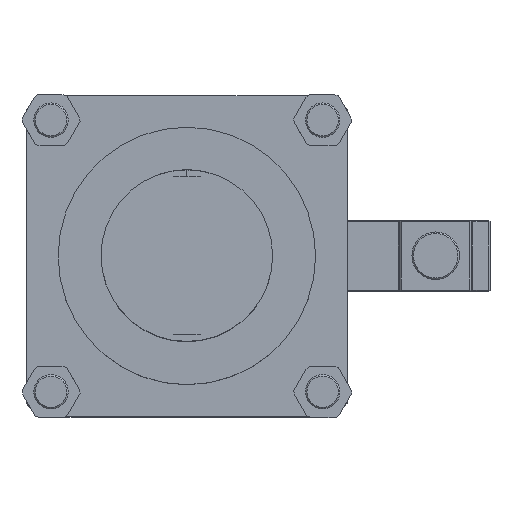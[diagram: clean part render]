
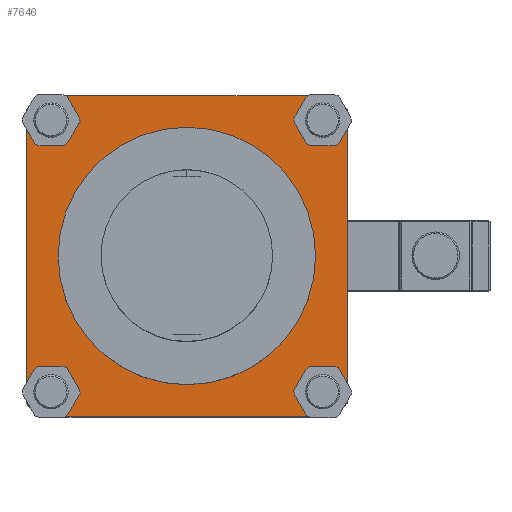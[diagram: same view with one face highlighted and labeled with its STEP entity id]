
A CAD part, top view. The second image highlights one B-rep face of the part: STEP entity #7646.
In plain terms, the highlighted planar face has unit normal (0, 0, 1).
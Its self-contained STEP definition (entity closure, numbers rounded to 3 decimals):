
#100 = DIRECTION ( 'NONE',  ( 0., 0., 1. ) ) ;
#212 = EDGE_CURVE ( 'NONE', #4734, #6245, #5312, .T. ) ;
#264 = VECTOR ( 'NONE', #4931, 1000. ) ;
#381 = CARTESIAN_POINT ( 'NONE',  ( -38.5, -47.5, 198. ) ) ;
#715 = AXIS2_PLACEMENT_3D ( 'NONE', #1867, #6213, #2491 ) ;
#779 = AXIS2_PLACEMENT_3D ( 'NONE', #5643, #1931, #6269 ) ;
#853 = CARTESIAN_POINT ( 'NONE',  ( 38.5, 47.5, 198. ) ) ;
#925 = CIRCLE ( 'NONE', #779, 45. ) ;
#1017 = CARTESIAN_POINT ( 'NONE',  ( 47.5, -47.5, 198. ) ) ;
#1080 = ORIENTED_EDGE ( 'NONE', *, *, #1457, .F. ) ;
#1132 = CIRCLE ( 'NONE', #6150, 9. ) ;
#1141 = CARTESIAN_POINT ( 'NONE',  ( 0., -56., 198. ) ) ;
#1199 = CARTESIAN_POINT ( 'NONE',  ( 0., 56., 198. ) ) ;
#1250 = VERTEX_POINT ( 'NONE', #5921 ) ;
#1316 = AXIS2_PLACEMENT_3D ( 'NONE', #1017, #5365, #1662 ) ;
#1354 = VERTEX_POINT ( 'NONE', #7873 ) ;
#1457 = EDGE_CURVE ( 'NONE', #5775, #6361, #925, .T. ) ;
#1479 = VECTOR ( 'NONE', #7325, 1000. ) ;
#1555 = EDGE_CURVE ( 'NONE', #1354, #3264, #4779, .T. ) ;
#1576 = DIRECTION ( 'NONE',  ( 0., 0., 1. ) ) ;
#1662 = DIRECTION ( 'NONE',  ( 1., 0., 0. ) ) ;
#1865 = DIRECTION ( 'NONE',  ( 0., 0., -1. ) ) ;
#1867 = CARTESIAN_POINT ( 'NONE',  ( 47.5, 47.5, 198. ) ) ;
#1892 = DIRECTION ( 'NONE',  ( 0., 0., 1. ) ) ;
#1927 = ORIENTED_EDGE ( 'NONE', *, *, #5437, .F. ) ;
#1931 = DIRECTION ( 'NONE',  ( 0., 0., 1. ) ) ;
#1935 = CIRCLE ( 'NONE', #6852, 9. ) ;
#2039 = ORIENTED_EDGE ( 'NONE', *, *, #2684, .T. ) ;
#2079 = AXIS2_PLACEMENT_3D ( 'NONE', #5614, #1892, #6242 ) ;
#2181 = VERTEX_POINT ( 'NONE', #4414 ) ;
#2187 = FACE_OUTER_BOUND ( 'NONE', #2865, .T. ) ;
#2203 = DIRECTION ( 'NONE',  ( 0., 0., -1. ) ) ;
#2357 = EDGE_CURVE ( 'NONE', #6361, #5775, #5721, .T. ) ;
#2491 = DIRECTION ( 'NONE',  ( 1., 0., 0. ) ) ;
#2519 = ORIENTED_EDGE ( 'NONE', *, *, #6837, .F. ) ;
#2629 = VERTEX_POINT ( 'NONE', #5209 ) ;
#2684 = EDGE_CURVE ( 'NONE', #6245, #1250, #1935, .T. ) ;
#2722 = DIRECTION ( 'NONE',  ( 0., -1., 0. ) ) ;
#2829 = VERTEX_POINT ( 'NONE', #6070 ) ;
#2865 = EDGE_LOOP ( 'NONE', ( #6488, #1927, #3583, #3784, #5426, #2519, #5819, #7669, #2909, #8050, #4952, #2039 ) ) ;
#2907 = CIRCLE ( 'NONE', #6210, 9. ) ;
#2909 = ORIENTED_EDGE ( 'NONE', *, *, #4036, .T. ) ;
#2973 = VECTOR ( 'NONE', #2722, 1000. ) ;
#3077 = CARTESIAN_POINT ( 'NONE',  ( 0., 0., 198. ) ) ;
#3170 = CARTESIAN_POINT ( 'NONE',  ( -38.5, 47.5, 198. ) ) ;
#3197 = ORIENTED_EDGE ( 'NONE', *, *, #2357, .F. ) ;
#3233 = DIRECTION ( 'NONE',  ( 0., 0., 1. ) ) ;
#3264 = VERTEX_POINT ( 'NONE', #381 ) ;
#3349 = VERTEX_POINT ( 'NONE', #7907 ) ;
#3376 = CIRCLE ( 'NONE', #715, 9. ) ;
#3429 = CARTESIAN_POINT ( 'NONE',  ( 56., 0., 198. ) ) ;
#3583 = ORIENTED_EDGE ( 'NONE', *, *, #1555, .F. ) ;
#3710 = DIRECTION ( 'NONE',  ( 1., 0., 0. ) ) ;
#3750 = EDGE_LOOP ( 'NONE', ( #1080, #3197 ) ) ;
#3784 = ORIENTED_EDGE ( 'NONE', *, *, #5816, .T. ) ;
#3851 = FACE_BOUND ( 'NONE', #3750, .T. ) ;
#3872 = CARTESIAN_POINT ( 'NONE',  ( -47.5, -47.5, 198. ) ) ;
#3937 = AXIS2_PLACEMENT_3D ( 'NONE', #3872, #100, #4501 ) ;
#4036 = EDGE_CURVE ( 'NONE', #6724, #2629, #2907, .T. ) ;
#4234 = AXIS2_PLACEMENT_3D ( 'NONE', #6041, #6115, #6065 ) ;
#4414 = CARTESIAN_POINT ( 'NONE',  ( 56., -44.542, 198. ) ) ;
#4501 = DIRECTION ( 'NONE',  ( 1., 0., 0. ) ) ;
#4532 = CARTESIAN_POINT ( 'NONE',  ( 45., 0., 198. ) ) ;
#4734 = VERTEX_POINT ( 'NONE', #6365 ) ;
#4742 = VERTEX_POINT ( 'NONE', #5153 ) ;
#4779 = CIRCLE ( 'NONE', #2079, 9. ) ;
#4839 = CARTESIAN_POINT ( 'NONE',  ( -45., 0., 198. ) ) ;
#4931 = DIRECTION ( 'NONE',  ( 1., 0., 0. ) ) ;
#4936 = CIRCLE ( 'NONE', #1316, 9. ) ;
#4952 = ORIENTED_EDGE ( 'NONE', *, *, #212, .T. ) ;
#5124 = EDGE_CURVE ( 'NONE', #4734, #2629, #6713, .T. ) ;
#5153 = CARTESIAN_POINT ( 'NONE',  ( 44.542, -56., 198. ) ) ;
#5209 = CARTESIAN_POINT ( 'NONE',  ( 44.542, 56., 198. ) ) ;
#5280 = PLANE ( 'NONE',  #6208 ) ;
#5312 = CIRCLE ( 'NONE', #4234, 9. ) ;
#5365 = DIRECTION ( 'NONE',  ( 0., 0., 1. ) ) ;
#5426 = ORIENTED_EDGE ( 'NONE', *, *, #7168, .F. ) ;
#5437 = EDGE_CURVE ( 'NONE', #3264, #5783, #7882, .T. ) ;
#5576 = CARTESIAN_POINT ( 'NONE',  ( 47.5, 47.5, 198. ) ) ;
#5604 = EDGE_CURVE ( 'NONE', #2829, #2181, #7970, .T. ) ;
#5614 = CARTESIAN_POINT ( 'NONE',  ( -47.5, -47.5, 198. ) ) ;
#5643 = CARTESIAN_POINT ( 'NONE',  ( 0., 0., 198. ) ) ;
#5721 = CIRCLE ( 'NONE', #5767, 45. ) ;
#5767 = AXIS2_PLACEMENT_3D ( 'NONE', #3077, #7409, #3710 ) ;
#5775 = VERTEX_POINT ( 'NONE', #4839 ) ;
#5783 = VERTEX_POINT ( 'NONE', #7920 ) ;
#5816 = EDGE_CURVE ( 'NONE', #1354, #4742, #6415, .T. ) ;
#5819 = ORIENTED_EDGE ( 'NONE', *, *, #5604, .F. ) ;
#5921 = CARTESIAN_POINT ( 'NONE',  ( -56., 44.542, 198. ) ) ;
#5922 = DIRECTION ( 'NONE',  ( 1., 0., 0. ) ) ;
#5937 = CARTESIAN_POINT ( 'NONE',  ( -47.5, 47.5, 198. ) ) ;
#6041 = CARTESIAN_POINT ( 'NONE',  ( -47.5, 47.5, 198. ) ) ;
#6065 = DIRECTION ( 'NONE',  ( 1., 0., 0. ) ) ;
#6070 = CARTESIAN_POINT ( 'NONE',  ( 56., 44.542, 198. ) ) ;
#6115 = DIRECTION ( 'NONE',  ( 0., 0., -1. ) ) ;
#6150 = AXIS2_PLACEMENT_3D ( 'NONE', #6927, #3233, #7571 ) ;
#6208 = AXIS2_PLACEMENT_3D ( 'NONE', #6506, #1576, #5922 ) ;
#6210 = AXIS2_PLACEMENT_3D ( 'NONE', #5576, #1865, #6212 ) ;
#6212 = DIRECTION ( 'NONE',  ( 1., 0., 0. ) ) ;
#6213 = DIRECTION ( 'NONE',  ( 0., 0., -1. ) ) ;
#6242 = DIRECTION ( 'NONE',  ( 1., 0., 0. ) ) ;
#6245 = VERTEX_POINT ( 'NONE', #3170 ) ;
#6269 = DIRECTION ( 'NONE',  ( 1., 0., 0. ) ) ;
#6361 = VERTEX_POINT ( 'NONE', #4532 ) ;
#6365 = CARTESIAN_POINT ( 'NONE',  ( -44.542, 56., 198. ) ) ;
#6415 = LINE ( 'NONE', #1141, #1479 ) ;
#6463 = LINE ( 'NONE', #7657, #2973 ) ;
#6488 = ORIENTED_EDGE ( 'NONE', *, *, #7528, .T. ) ;
#6506 = CARTESIAN_POINT ( 'NONE',  ( 0., 0., 198. ) ) ;
#6536 = DIRECTION ( 'NONE',  ( 0., -1., 0. ) ) ;
#6539 = DIRECTION ( 'NONE',  ( 1., 0., 0. ) ) ;
#6713 = LINE ( 'NONE', #1199, #264 ) ;
#6724 = VERTEX_POINT ( 'NONE', #853 ) ;
#6837 = EDGE_CURVE ( 'NONE', #2181, #3349, #4936, .T. ) ;
#6852 = AXIS2_PLACEMENT_3D ( 'NONE', #5937, #2203, #6539 ) ;
#6927 = CARTESIAN_POINT ( 'NONE',  ( 47.5, -47.5, 198. ) ) ;
#7095 = EDGE_CURVE ( 'NONE', #2829, #6724, #3376, .T. ) ;
#7168 = EDGE_CURVE ( 'NONE', #3349, #4742, #1132, .T. ) ;
#7325 = DIRECTION ( 'NONE',  ( 1., 0., 0. ) ) ;
#7409 = DIRECTION ( 'NONE',  ( 0., 0., 1. ) ) ;
#7528 = EDGE_CURVE ( 'NONE', #1250, #5783, #6463, .T. ) ;
#7571 = DIRECTION ( 'NONE',  ( 1., 0., 0. ) ) ;
#7646 = ADVANCED_FACE ( 'NONE', ( #3851, #2187 ), #5280, .T. ) ;
#7657 = CARTESIAN_POINT ( 'NONE',  ( -56., 0., 198. ) ) ;
#7669 = ORIENTED_EDGE ( 'NONE', *, *, #7095, .T. ) ;
#7783 = VECTOR ( 'NONE', #6536, 1000. ) ;
#7873 = CARTESIAN_POINT ( 'NONE',  ( -44.542, -56., 198. ) ) ;
#7882 = CIRCLE ( 'NONE', #3937, 9. ) ;
#7907 = CARTESIAN_POINT ( 'NONE',  ( 38.5, -47.5, 198. ) ) ;
#7920 = CARTESIAN_POINT ( 'NONE',  ( -56., -44.542, 198. ) ) ;
#7970 = LINE ( 'NONE', #3429, #7783 ) ;
#8050 = ORIENTED_EDGE ( 'NONE', *, *, #5124, .F. ) ;
